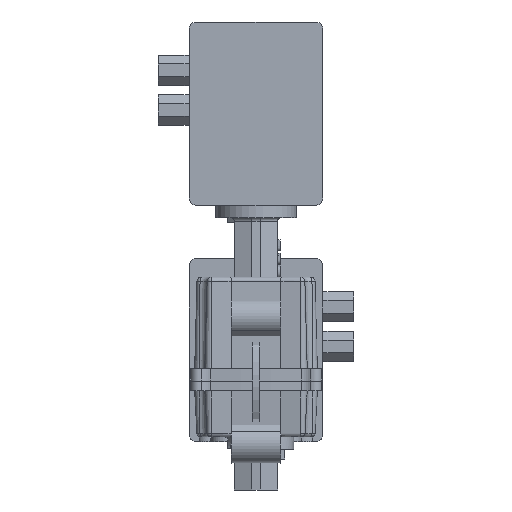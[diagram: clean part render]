
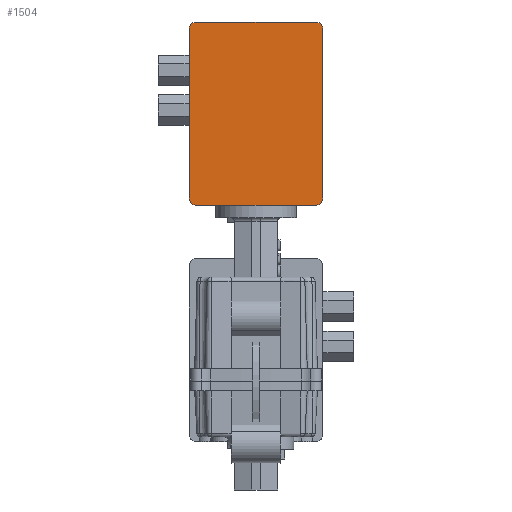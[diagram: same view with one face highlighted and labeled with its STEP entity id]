
A CAD part, left-side view. The second image highlights one B-rep face of the part: STEP entity #1504.
In plain terms, the highlighted planar face has unit normal (-1, 0, 0) as drawn and (1, 0, 0) by its records, which use the part's own axes.
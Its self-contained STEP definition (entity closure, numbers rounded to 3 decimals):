
#1504 = ADVANCED_FACE( '', ( #3216 ), #3217, .T. );
#3216 = FACE_OUTER_BOUND( '', #7794, .T. );
#3217 = PLANE( '', #7795 );
#7794 = EDGE_LOOP( '', ( #13821, #13822, #13823, #13824, #13825, #13826, #13827, #13828 ) );
#7795 = AXIS2_PLACEMENT_3D( '', #13829, #13830, #13831 );
#13821 = ORIENTED_EDGE( '', *, *, #15592, .T. );
#13822 = ORIENTED_EDGE( '', *, *, #16795, .T. );
#13823 = ORIENTED_EDGE( '', *, *, #15513, .T. );
#13824 = ORIENTED_EDGE( '', *, *, #15536, .T. );
#13825 = ORIENTED_EDGE( '', *, *, #16000, .T. );
#13826 = ORIENTED_EDGE( '', *, *, #17181, .T. );
#13827 = ORIENTED_EDGE( '', *, *, #17182, .T. );
#13828 = ORIENTED_EDGE( '', *, *, #17183, .T. );
#13829 = CARTESIAN_POINT( '', ( 148., -54., -49. ) );
#13830 = DIRECTION( '', ( 1., 0., 0. ) );
#13831 = DIRECTION( '', ( 0., 0., -1. ) );
#15513 = EDGE_CURVE( '', #17660, #17661, #17662, .T. );
#15536 = EDGE_CURVE( '', #17661, #17701, #17702, .T. );
#15592 = EDGE_CURVE( '', #17798, #17796, #17799, .T. );
#16000 = EDGE_CURVE( '', #17701, #18503, #18505, .T. );
#16795 = EDGE_CURVE( '', #17796, #17660, #19688, .T. );
#17181 = EDGE_CURVE( '', #18503, #20162, #20163, .T. );
#17182 = EDGE_CURVE( '', #20162, #20164, #20165, .T. );
#17183 = EDGE_CURVE( '', #20164, #17798, #20166, .T. );
#17660 = VERTEX_POINT( '', #21126 );
#17661 = VERTEX_POINT( '', #21127 );
#17662 = LINE( '', #21128, #21129 );
#17701 = VERTEX_POINT( '', #21201 );
#17702 = CIRCLE( '', #21202, 6. );
#17796 = VERTEX_POINT( '', #21614 );
#17798 = VERTEX_POINT( '', #21617 );
#17799 = LINE( '', #21618, #21619 );
#18503 = VERTEX_POINT( '', #23513 );
#18505 = LINE( '', #23516, #23517 );
#19688 = CIRCLE( '', #26965, 6. );
#20162 = VERTEX_POINT( '', #28181 );
#20163 = CIRCLE( '', #28182, 6. );
#20164 = VERTEX_POINT( '', #28183 );
#20165 = LINE( '', #28184, #28185 );
#20166 = CIRCLE( '', #28186, 6. );
#21126 = CARTESIAN_POINT( '', ( 148., 48., 99. ) );
#21127 = CARTESIAN_POINT( '', ( 148., -48., 99. ) );
#21128 = CARTESIAN_POINT( '', ( 148., 54., 99. ) );
#21129 = VECTOR( '', #28929, 1000. );
#21201 = CARTESIAN_POINT( '', ( 148., -54., 93. ) );
#21202 = AXIS2_PLACEMENT_3D( '', #28951, #28952, #28953 );
#21614 = CARTESIAN_POINT( '', ( 148., 54., 93. ) );
#21617 = CARTESIAN_POINT( '', ( 148., 54., -43. ) );
#21618 = CARTESIAN_POINT( '', ( 148., 54., -49. ) );
#21619 = VECTOR( '', #29026, 1000. );
#23513 = CARTESIAN_POINT( '', ( 148., -54., -43. ) );
#23516 = CARTESIAN_POINT( '', ( 148., -54., 99. ) );
#23517 = VECTOR( '', #29504, 1000. );
#26965 = AXIS2_PLACEMENT_3D( '', #30300, #30301, #30302 );
#28181 = CARTESIAN_POINT( '', ( 148., -48., -49. ) );
#28182 = AXIS2_PLACEMENT_3D( '', #30645, #30646, #30647 );
#28183 = CARTESIAN_POINT( '', ( 148., 48., -49. ) );
#28184 = CARTESIAN_POINT( '', ( 148., -54., -49. ) );
#28185 = VECTOR( '', #30648, 1000. );
#28186 = AXIS2_PLACEMENT_3D( '', #30649, #30650, #30651 );
#28929 = DIRECTION( '', ( 0., -1., 0. ) );
#28951 = CARTESIAN_POINT( '', ( 148., -48., 93. ) );
#28952 = DIRECTION( '', ( 1., 0., 0. ) );
#28953 = DIRECTION( '', ( 0., 0., -1. ) );
#29026 = DIRECTION( '', ( 0., 0., 1. ) );
#29504 = DIRECTION( '', ( 0., 0., -1. ) );
#30300 = CARTESIAN_POINT( '', ( 148., 48., 93. ) );
#30301 = DIRECTION( '', ( 1., 0., 0. ) );
#30302 = DIRECTION( '', ( 0., 0., -1. ) );
#30645 = CARTESIAN_POINT( '', ( 148., -48., -43. ) );
#30646 = DIRECTION( '', ( 1., 0., 0. ) );
#30647 = DIRECTION( '', ( 0., 0., -1. ) );
#30648 = DIRECTION( '', ( 0., 1., 0. ) );
#30649 = CARTESIAN_POINT( '', ( 148., 48., -43. ) );
#30650 = DIRECTION( '', ( 1., 0., 0. ) );
#30651 = DIRECTION( '', ( 0., 0., -1. ) );
